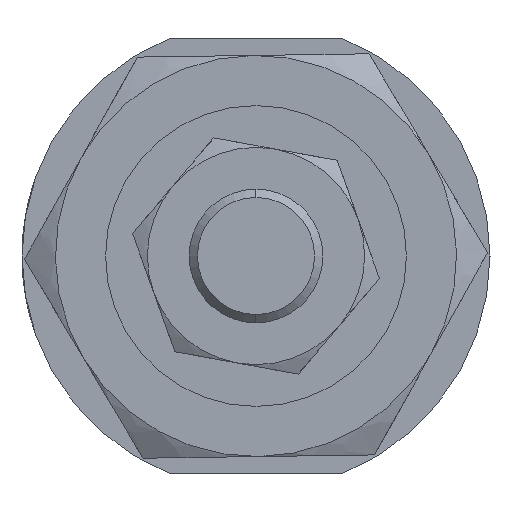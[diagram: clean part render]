
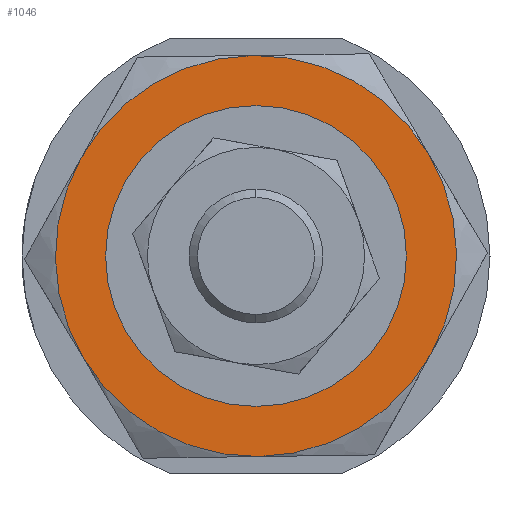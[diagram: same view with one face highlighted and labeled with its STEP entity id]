
A CAD part, left-side view. The second image highlights one B-rep face of the part: STEP entity #1046.
In plain terms, the highlighted planar face has unit normal (-1, 0, 0) as drawn and (0, 0, -1) by its records, which use the part's own axes.
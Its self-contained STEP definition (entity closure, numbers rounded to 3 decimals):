
#34 = CIRCLE ( 'NONE', #1728, 12. ) ;
#131 = CIRCLE ( 'NONE', #2846, 12. ) ;
#216 = FACE_BOUND ( 'NONE', #605, .T. ) ;
#217 = CARTESIAN_POINT ( 'NONE',  ( 0., 0., -4. ) ) ;
#270 = PLANE ( 'NONE',  #1938 ) ;
#294 = ORIENTED_EDGE ( 'NONE', *, *, #2124, .F. ) ;
#329 = VERTEX_POINT ( 'NONE', #1110 ) ;
#356 = VERTEX_POINT ( 'NONE', #683 ) ;
#367 = DIRECTION ( 'NONE',  ( 0., 0., 1. ) ) ;
#390 = DIRECTION ( 'NONE',  ( 0., 0., 1. ) ) ;
#422 = EDGE_CURVE ( 'NONE', #1369, #1629, #34, .T. ) ;
#456 = CARTESIAN_POINT ( 'NONE',  ( 0., 0., -4. ) ) ;
#520 = CARTESIAN_POINT ( 'NONE',  ( 0., 0., -4. ) ) ;
#555 = CARTESIAN_POINT ( 'NONE',  ( 0., 0., -4. ) ) ;
#556 = ORIENTED_EDGE ( 'NONE', *, *, #2659, .T. ) ;
#584 = DIRECTION ( 'NONE',  ( 1., 0., 0. ) ) ;
#605 = EDGE_LOOP ( 'NONE', ( #1279, #556 ) ) ;
#639 = AXIS2_PLACEMENT_3D ( 'NONE', #555, #1472, #2975 ) ;
#683 = CARTESIAN_POINT ( 'NONE',  ( 6., -10.392, -4. ) ) ;
#701 = EDGE_CURVE ( 'NONE', #2744, #356, #1844, .T. ) ;
#714 = DIRECTION ( 'NONE',  ( 1., 0., 0. ) ) ;
#726 = CARTESIAN_POINT ( 'NONE',  ( 0., 0., -4. ) ) ;
#760 = CARTESIAN_POINT ( 'NONE',  ( 0., 0., -4. ) ) ;
#808 = DIRECTION ( 'NONE',  ( 1., 0., 0. ) ) ;
#831 = DIRECTION ( 'NONE',  ( 1., 0., 0. ) ) ;
#899 = DIRECTION ( 'NONE',  ( 1., 0., 0. ) ) ;
#928 = DIRECTION ( 'NONE',  ( 0., 0., 1. ) ) ;
#943 = AXIS2_PLACEMENT_3D ( 'NONE', #726, #390, #831 ) ;
#1046 = ADVANCED_FACE ( 'NONE', ( #216, #1622 ), #270, .F. ) ;
#1110 = CARTESIAN_POINT ( 'NONE',  ( -12., 0., -4. ) ) ;
#1194 = EDGE_CURVE ( 'NONE', #356, #2783, #2329, .T. ) ;
#1225 = CARTESIAN_POINT ( 'NONE',  ( -6., 10.392, -4. ) ) ;
#1235 = EDGE_CURVE ( 'NONE', #329, #2744, #2467, .T. ) ;
#1258 = AXIS2_PLACEMENT_3D ( 'NONE', #217, #367, #2926 ) ;
#1279 = ORIENTED_EDGE ( 'NONE', *, *, #1524, .T. ) ;
#1284 = EDGE_CURVE ( 'NONE', #2783, #1369, #1303, .T. ) ;
#1303 = CIRCLE ( 'NONE', #943, 12. ) ;
#1328 = CARTESIAN_POINT ( 'NONE',  ( 8.25, 0., -4. ) ) ;
#1369 = VERTEX_POINT ( 'NONE', #1853 ) ;
#1393 = DIRECTION ( 'NONE',  ( 0., 0., 1. ) ) ;
#1418 = CARTESIAN_POINT ( 'NONE',  ( 12., 0., -4. ) ) ;
#1472 = DIRECTION ( 'NONE',  ( 0., 0., 1. ) ) ;
#1524 = EDGE_CURVE ( 'NONE', #2234, #2322, #2852, .T. ) ;
#1609 = DIRECTION ( 'NONE',  ( 0., 0., 1. ) ) ;
#1622 = FACE_OUTER_BOUND ( 'NONE', #1827, .T. ) ;
#1629 = VERTEX_POINT ( 'NONE', #1225 ) ;
#1632 = ORIENTED_EDGE ( 'NONE', *, *, #1284, .F. ) ;
#1717 = AXIS2_PLACEMENT_3D ( 'NONE', #2403, #1393, #808 ) ;
#1728 = AXIS2_PLACEMENT_3D ( 'NONE', #520, #1609, #584 ) ;
#1827 = EDGE_LOOP ( 'NONE', ( #1632, #2971, #1831, #2023, #294, #2246 ) ) ;
#1831 = ORIENTED_EDGE ( 'NONE', *, *, #701, .F. ) ;
#1844 = CIRCLE ( 'NONE', #1258, 12. ) ;
#1853 = CARTESIAN_POINT ( 'NONE',  ( 6., 10.392, -4. ) ) ;
#1904 = DIRECTION ( 'NONE',  ( 0., 0., 1. ) ) ;
#1938 = AXIS2_PLACEMENT_3D ( 'NONE', #760, #1988, #2624 ) ;
#1988 = DIRECTION ( 'NONE',  ( 0., 0., 1. ) ) ;
#1993 = CARTESIAN_POINT ( 'NONE',  ( -6., -10.392, -4. ) ) ;
#2023 = ORIENTED_EDGE ( 'NONE', *, *, #1235, .F. ) ;
#2112 = CIRCLE ( 'NONE', #1717, 8.25 ) ;
#2124 = EDGE_CURVE ( 'NONE', #1629, #329, #131, .T. ) ;
#2165 = DIRECTION ( 'NONE',  ( 1., 0., 0. ) ) ;
#2234 = VERTEX_POINT ( 'NONE', #1328 ) ;
#2246 = ORIENTED_EDGE ( 'NONE', *, *, #422, .F. ) ;
#2322 = VERTEX_POINT ( 'NONE', #2496 ) ;
#2329 = CIRCLE ( 'NONE', #3185, 12. ) ;
#2334 = DIRECTION ( 'NONE',  ( 0., 0., 1. ) ) ;
#2403 = CARTESIAN_POINT ( 'NONE',  ( 0., 0., -4. ) ) ;
#2467 = CIRCLE ( 'NONE', #639, 12. ) ;
#2496 = CARTESIAN_POINT ( 'NONE',  ( -8.25, 0., -4. ) ) ;
#2624 = DIRECTION ( 'NONE',  ( 1., 0., 0. ) ) ;
#2659 = EDGE_CURVE ( 'NONE', #2322, #2234, #2112, .T. ) ;
#2744 = VERTEX_POINT ( 'NONE', #1993 ) ;
#2783 = VERTEX_POINT ( 'NONE', #1418 ) ;
#2846 = AXIS2_PLACEMENT_3D ( 'NONE', #3028, #1904, #2165 ) ;
#2852 = CIRCLE ( 'NONE', #3117, 8.25 ) ;
#2926 = DIRECTION ( 'NONE',  ( 1., 0., 0. ) ) ;
#2971 = ORIENTED_EDGE ( 'NONE', *, *, #1194, .F. ) ;
#2975 = DIRECTION ( 'NONE',  ( 1., 0., 0. ) ) ;
#3028 = CARTESIAN_POINT ( 'NONE',  ( 0., 0., -4. ) ) ;
#3117 = AXIS2_PLACEMENT_3D ( 'NONE', #456, #2334, #899 ) ;
#3185 = AXIS2_PLACEMENT_3D ( 'NONE', #3233, #928, #714 ) ;
#3233 = CARTESIAN_POINT ( 'NONE',  ( 0., 0., -4. ) ) ;
